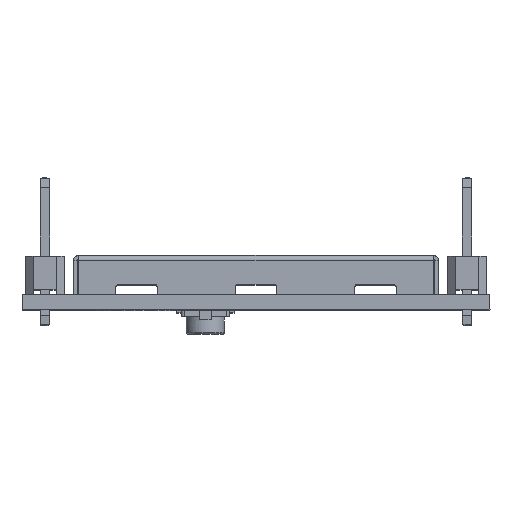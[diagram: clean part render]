
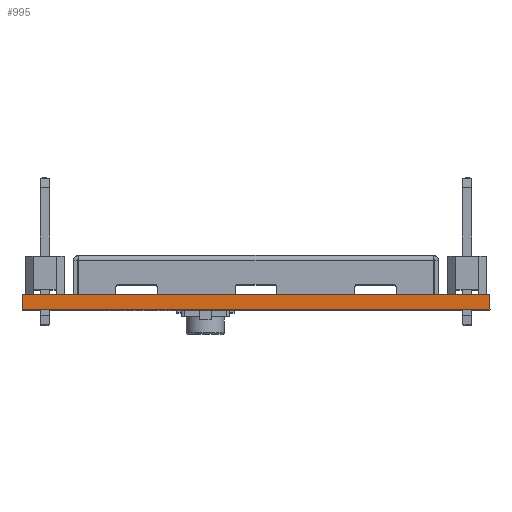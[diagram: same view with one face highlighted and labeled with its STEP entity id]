
A CAD part, top view. The second image highlights one B-rep face of the part: STEP entity #995.
In plain terms, the highlighted planar face has unit normal (0, 0, 1).
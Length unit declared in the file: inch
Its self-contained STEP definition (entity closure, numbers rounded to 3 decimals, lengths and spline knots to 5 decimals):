
#43 = ORIENTED_EDGE ( 'NONE', *, *, #7675, .T. ) ;
#154 = VECTOR ( 'NONE', #1375, 39.37008 ) ;
#884 = VECTOR ( 'NONE', #12169, 39.37008 ) ;
#995 = ADVANCED_FACE ( 'NONE', ( #1103 ), #12117, .F. ) ;
#1103 = FACE_OUTER_BOUND ( 'NONE', #10834, .T. ) ;
#1375 = DIRECTION ( 'NONE',  ( 0., -1., 0. ) ) ;
#2137 = LINE ( 'NONE', #7044, #9983 ) ;
#2560 = EDGE_CURVE ( 'NONE', #3161, #7202, #2137, .T. ) ;
#2656 = VERTEX_POINT ( 'NONE', #7578 ) ;
#2862 = CARTESIAN_POINT ( 'NONE',  ( 0.96, 0.1, -0.21 ) ) ;
#3161 = VERTEX_POINT ( 'NONE', #7625 ) ;
#3716 = LINE ( 'NONE', #7996, #9363 ) ;
#4853 = DIRECTION ( 'NONE',  ( 0., -1., 0. ) ) ;
#4974 = EDGE_CURVE ( 'NONE', #2656, #10478, #12031, .T. ) ;
#5848 = ORIENTED_EDGE ( 'NONE', *, *, #2560, .T. ) ;
#6039 = DIRECTION ( 'NONE',  ( 1., 0., 0. ) ) ;
#6516 = CARTESIAN_POINT ( 'NONE',  ( 0.96, 0.031, -0.21 ) ) ;
#6692 = LINE ( 'NONE', #12791, #154 ) ;
#6908 = DIRECTION ( 'NONE',  ( 0., 0., -1. ) ) ;
#7044 = CARTESIAN_POINT ( 'NONE',  ( 0.96, 0., -0.21 ) ) ;
#7202 = VERTEX_POINT ( 'NONE', #9977 ) ;
#7578 = CARTESIAN_POINT ( 'NONE',  ( 0., 0.031, -0.21 ) ) ;
#7625 = CARTESIAN_POINT ( 'NONE',  ( 0., 0., -0.21 ) ) ;
#7675 = EDGE_CURVE ( 'NONE', #2656, #3161, #3716, .T. ) ;
#7996 = CARTESIAN_POINT ( 'NONE',  ( 0., 0.1, -0.21 ) ) ;
#9329 = DIRECTION ( 'NONE',  ( -1., 0., 0. ) ) ;
#9363 = VECTOR ( 'NONE', #4853, 39.37008 ) ;
#9900 = AXIS2_PLACEMENT_3D ( 'NONE', #2862, #6908, #9329 ) ;
#9977 = CARTESIAN_POINT ( 'NONE',  ( 0.96, 0., -0.21 ) ) ;
#9983 = VECTOR ( 'NONE', #6039, 39.37008 ) ;
#10431 = ORIENTED_EDGE ( 'NONE', *, *, #12263, .F. ) ;
#10478 = VERTEX_POINT ( 'NONE', #6516 ) ;
#10834 = EDGE_LOOP ( 'NONE', ( #43, #5848, #10431, #12922 ) ) ;
#11224 = CARTESIAN_POINT ( 'NONE',  ( 0., 0.031, -0.21 ) ) ;
#12031 = LINE ( 'NONE', #11224, #884 ) ;
#12117 = PLANE ( 'NONE',  #9900 ) ;
#12169 = DIRECTION ( 'NONE',  ( 1., 0., 0. ) ) ;
#12263 = EDGE_CURVE ( 'NONE', #10478, #7202, #6692, .T. ) ;
#12791 = CARTESIAN_POINT ( 'NONE',  ( 0.96, 0., -0.21 ) ) ;
#12922 = ORIENTED_EDGE ( 'NONE', *, *, #4974, .F. ) ;
